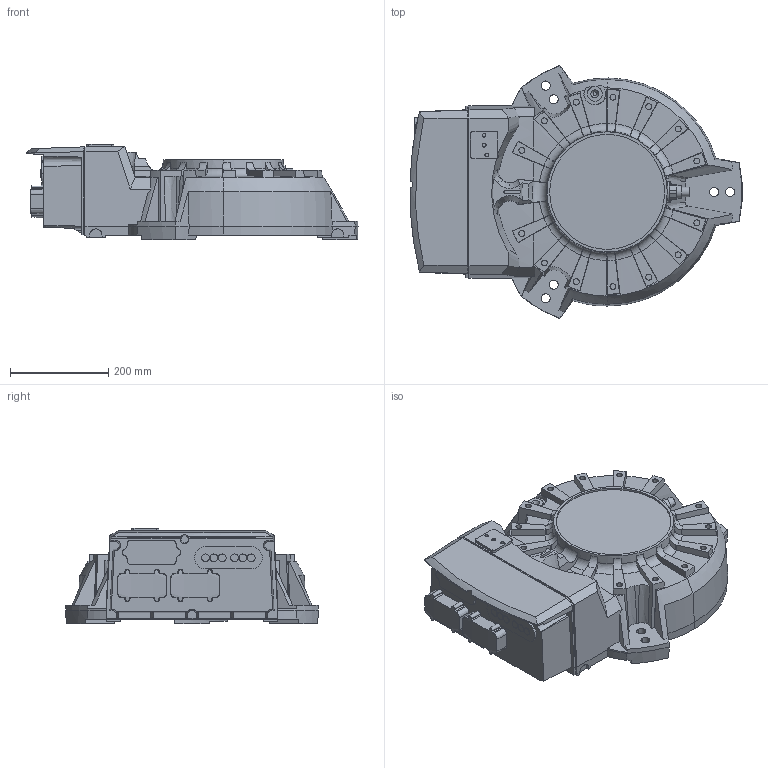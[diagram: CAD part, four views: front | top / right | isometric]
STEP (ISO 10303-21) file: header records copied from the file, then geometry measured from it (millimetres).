
FILE_DESCRIPTION (( 'STEP AP214' ), '1' );
FILE_NAME ('IRB4600_40-255_base_CAD_03.STEP', '2012-06-25T11:59:18', ( 'ABB' ), ( 'ABB' ), 'SwSTEP 2.0', 'SolidWorks 2010', '' );
FILE_SCHEMA (( 'AUTOMOTIVE_DESIGN' ));
Length unit declared in the file: millimetre
Products named in the file (1): IRB4600_40-255_base_CAD_03
Bounding box: 675.23 x 514.54 x 195 mm (x, y, z)
Volume: 30264170.9 mm3; surface area: 899518.1 mm2
Topology: 1 solids, 1 shells, 615 faces, 1679 edges, 1103 vertices
Faces by surface type: plane 260, cone 177, cylinder 102, torus 53, bspline 23
Entity records: 25279 total; most frequent: CARTESIAN_POINT 8500, ORIENTED_EDGE 3358, DIRECTION 2766, EDGE_CURVE 1679, VERTEX_POINT 1103, AXIS2_PLACEMENT_3D 1076, EDGE_LOOP 664, FACE_OUTER_BOUND 615
